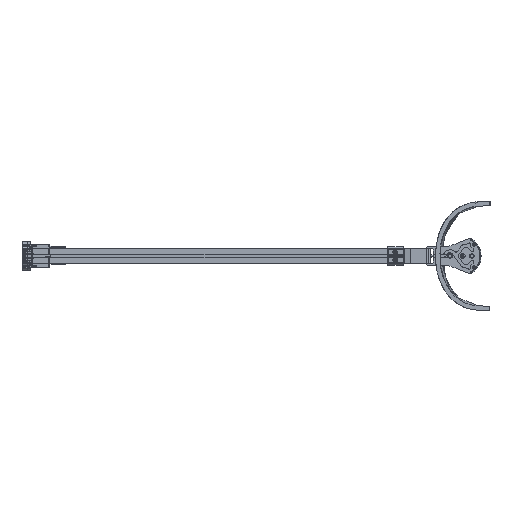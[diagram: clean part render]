
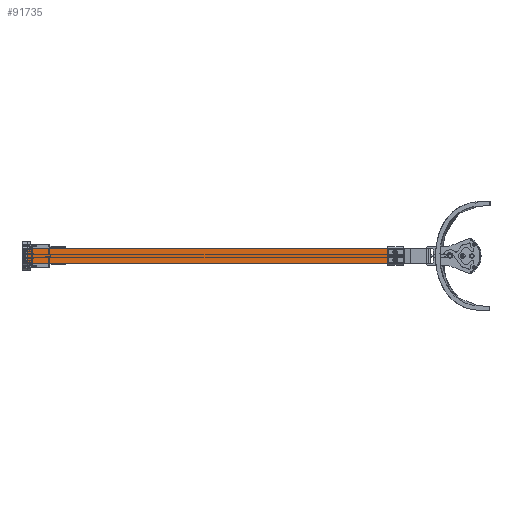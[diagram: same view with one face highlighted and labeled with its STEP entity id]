
A CAD part, left-side view. The second image highlights one B-rep face of the part: STEP entity #91735.
In plain terms, the highlighted planar face has unit normal (-1, 0, 0) as drawn and (0, 0, 1) by its records, which use the part's own axes.
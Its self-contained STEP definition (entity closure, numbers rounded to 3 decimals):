
#504 = CARTESIAN_POINT ( 'NONE',  ( 14., 688., 0.75 ) ) ;
#3271 = EDGE_CURVE ( 'NONE', #53076, #51439, #12161, .T. ) ;
#8919 = DIRECTION ( 'NONE',  ( 0., -1., 0. ) ) ;
#12161 = LINE ( 'NONE', #70716, #67963 ) ;
#18182 = DIRECTION ( 'NONE',  ( 1., 0., 0. ) ) ;
#19821 = DIRECTION ( 'NONE',  ( -1., 0., 0. ) ) ;
#22195 = ORIENTED_EDGE ( 'NONE', *, *, #46589, .F. ) ;
#22615 = VERTEX_POINT ( 'NONE', #66626 ) ;
#28375 = ORIENTED_EDGE ( 'NONE', *, *, #63337, .F. ) ;
#28680 = CARTESIAN_POINT ( 'NONE',  ( -14., 688., 0.75 ) ) ;
#29142 = EDGE_CURVE ( 'NONE', #22615, #65157, #74876, .T. ) ;
#30049 = DIRECTION ( 'NONE',  ( 0., 1., 0. ) ) ;
#31685 = PLANE ( 'NONE',  #44191 ) ;
#33887 = DIRECTION ( 'NONE',  ( 0., 0., -1. ) ) ;
#36917 = EDGE_LOOP ( 'NONE', ( #22195, #56539, #28375, #88027 ) ) ;
#44191 = AXIS2_PLACEMENT_3D ( 'NONE', #81339, #33887, #19821 ) ;
#46589 = EDGE_CURVE ( 'NONE', #65157, #53076, #65124, .T. ) ;
#49578 = CARTESIAN_POINT ( 'NONE',  ( 14., 0., 0.75 ) ) ;
#51439 = VERTEX_POINT ( 'NONE', #66021 ) ;
#53076 = VERTEX_POINT ( 'NONE', #49578 ) ;
#53318 = CARTESIAN_POINT ( 'NONE',  ( -14., 688., 0.75 ) ) ;
#56539 = ORIENTED_EDGE ( 'NONE', *, *, #29142, .F. ) ;
#60784 = VECTOR ( 'NONE', #18182, 1000. ) ;
#63337 = EDGE_CURVE ( 'NONE', #51439, #22615, #80176, .T. ) ;
#63578 = CARTESIAN_POINT ( 'NONE',  ( 14., 688., 0.75 ) ) ;
#65124 = LINE ( 'NONE', #504, #72113 ) ;
#65157 = VERTEX_POINT ( 'NONE', #63578 ) ;
#66021 = CARTESIAN_POINT ( 'NONE',  ( -14., 0., 0.75 ) ) ;
#66626 = CARTESIAN_POINT ( 'NONE',  ( -14., 688., 0.75 ) ) ;
#67963 = VECTOR ( 'NONE', #68861, 1000. ) ;
#68861 = DIRECTION ( 'NONE',  ( -1., 0., 0. ) ) ;
#70716 = CARTESIAN_POINT ( 'NONE',  ( -14., 0., 0.75 ) ) ;
#72113 = VECTOR ( 'NONE', #8919, 1000. ) ;
#74876 = LINE ( 'NONE', #53318, #60784 ) ;
#76958 = FACE_OUTER_BOUND ( 'NONE', #36917, .T. ) ;
#80176 = LINE ( 'NONE', #28680, #85617 ) ;
#81339 = CARTESIAN_POINT ( 'NONE',  ( -14., 688., 0.75 ) ) ;
#85617 = VECTOR ( 'NONE', #30049, 1000. ) ;
#88027 = ORIENTED_EDGE ( 'NONE', *, *, #3271, .F. ) ;
#91735 = ADVANCED_FACE ( 'NONE', ( #76958 ), #31685, .F. ) ;
